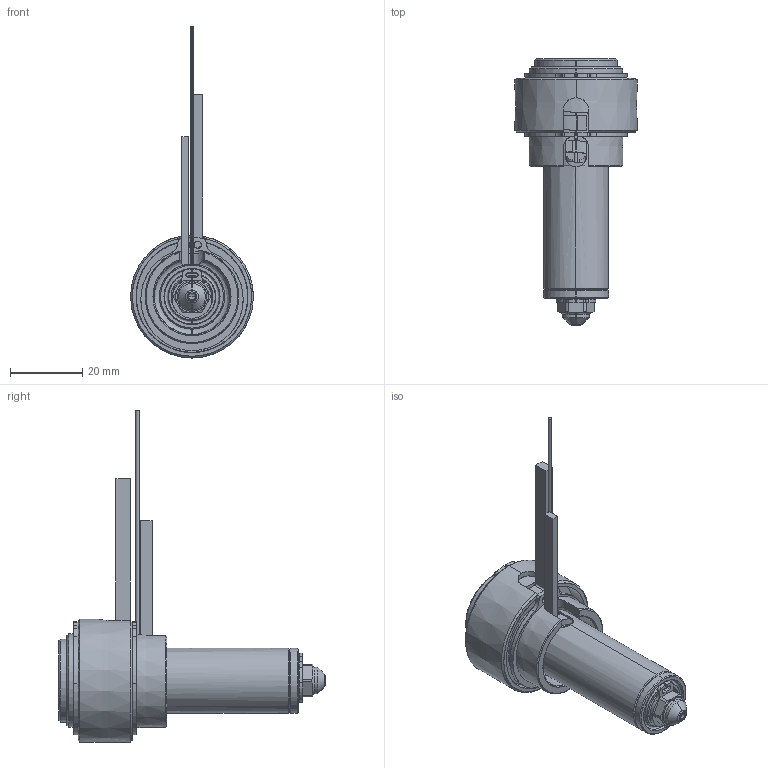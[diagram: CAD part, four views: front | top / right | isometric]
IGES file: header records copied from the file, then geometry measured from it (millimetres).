
Start section: SolidWorks IGES file using analytic representation for surfaces
Global section: file name: C:\Documents and Settings\ws-20\Desktop\TEM\UGER2501-M-A-1 [Øb-1.90 ØC-5.0].IGS; native system: SolidWorks 2012; preprocessor: SolidWorks 2012; author: ws-20; date: 120405.104928; units: millimetre
Bounding box: 34 x 73.9 x 91.9 mm (x, y, z)
Surface area: 19220.5 mm2 (no closed solid volume)
Topology: 0 solids, 0 shells, 198 faces, 2531 edges, 2529 vertices
Faces by surface type: revolution 126, bspline 72
